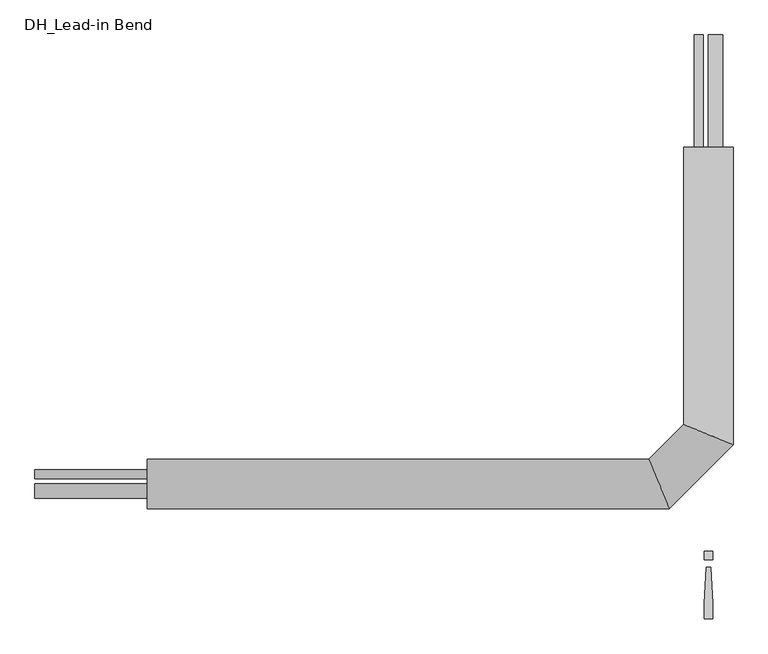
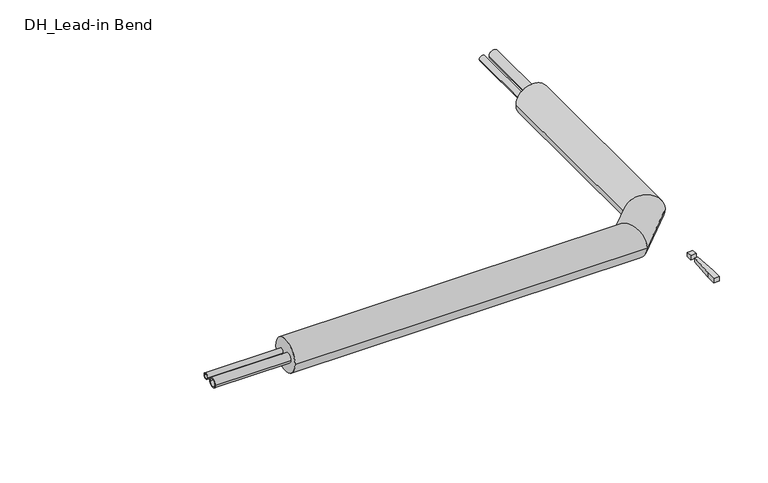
"""IFC4 building model written with IfcOpenShell, lengths in millimetres: pipe fitting geometry, DH_Lead-in Bend : INSULPEX DUO 7.4 DW Vertical."""

import ifcopenshell
import ifcopenshell.guid

model = None  # the IFC model being written
_history = None  # IfcOwnerHistory: only IFC2X3 demands one
_inside = {}  # id of a spatial element -> (the spatial element, [elements in it])
_under = {}  # id of a project, library or spatial element -> (it, [spatial elements below it])
_declared = {}  # id of a project -> (the project, [libraries it declares])
_typed = {}  # id of a type object -> (the type object, [elements of that type])
_made_of = {}  # id of a material, layer set ... -> (it, [elements and type objects made of it])


def new_model(schema):
    """Start an empty IFC model of exactly this schema.

    Asked for "IFC4X3", IfcOpenShell would pick the latest addendum, in which some entities
    have other attributes; the version numbers below select the first issue.
    IFC2X3 requires an IfcOwnerHistory on every rooted entity: one is made here for all.
    """
    global model, _history
    if schema == "IFC4X3":
        model = ifcopenshell.file(schema_version=(4, 3, 0, 0))
    else:
        model = ifcopenshell.file(schema=schema)
    _inside.clear()
    _under.clear()
    _declared.clear()
    _typed.clear()
    _made_of.clear()
    _history = None
    if model.schema == "IFC2X3":
        org = make("IfcOrganization", Name="unknown")
        user = make(
            "IfcPersonAndOrganization",
            ThePerson=make("IfcPerson", FamilyName="unknown"),
            TheOrganization=org,
        )
        app = make(
            "IfcApplication",
            ApplicationDeveloper=org,
            Version="unknown",
            ApplicationFullName="unknown",
            ApplicationIdentifier="unknown",
        )
        _history = make(
            "IfcOwnerHistory",
            OwningUser=user,
            OwningApplication=app,
            ChangeAction="ADDED",
            CreationDate=0,
        )
    return model


def make(cls, **values):
    """One entity of the class cls with the attributes given. An attribute that is None is left unset."""
    return model.create_entity(
        cls, **{name: value for name, value in values.items() if value is not None}
    )


def rooted(cls, **values):
    """An entity with a GlobalId (a new one), such as an element, a storey or a relation."""
    return make(cls, GlobalId=ifcopenshell.guid.new(), OwnerHistory=_history, **values)


def si_unit(unit_type, name, prefix=None):
    """IfcSIUnit, for example si_unit("LENGTHUNIT", "METRE", prefix="MILLI")."""
    return make("IfcSIUnit", UnitType=unit_type, Prefix=prefix, Name=name)


def assignment(units):
    """IfcUnitAssignment: the units of a project."""
    return None if units is None else make("IfcUnitAssignment", Units=units)


def point(xyz):
    """IfcCartesianPoint."""
    return None if xyz is None else make("IfcCartesianPoint", Coordinates=xyz)


def direction(xyz):
    """IfcDirection."""
    return None if xyz is None else make("IfcDirection", DirectionRatios=xyz)


def frame(location, z_axis=None, x_axis=None):
    """IfcAxis2Placement3D, a coordinate frame: its origin and axes. An axis left out is left unset."""
    return make(
        "IfcAxis2Placement3D",
        Location=point(location),
        Axis=direction(z_axis),
        RefDirection=direction(x_axis),
    )


def frame_2d(location, x_axis=None):
    """IfcAxis2Placement2D, a coordinate frame in the plane: its origin and x axis."""
    return make(
        "IfcAxis2Placement2D", Location=point(location), RefDirection=direction(x_axis)
    )


def origin():
    """The frame at (0, 0, 0) with its axes left unset."""
    return frame((0.0, 0.0, 0.0))


def origin_with_axes():
    """The frame at (0, 0, 0) with the z axis (0, 0, 1) and the x axis (1, 0, 0) written out."""
    return frame((0.0, 0.0, 0.0), z_axis=(0.0, 0.0, 1.0), x_axis=(1.0, 0.0, 0.0))


def place(relative_to, where):
    """IfcLocalPlacement: puts the frame where relative to a parent placement (None: the world)."""
    return make(
        "IfcLocalPlacement", PlacementRelTo=relative_to, RelativePlacement=where
    )


def context(
    kind, dimensions, precision=None, world=None, true_north=None, identifier=None
):
    """IfcGeometricRepresentationContext, for example the 3D "Model" context."""
    return make(
        "IfcGeometricRepresentationContext",
        ContextIdentifier=identifier,
        ContextType=kind,
        CoordinateSpaceDimension=dimensions,
        Precision=precision,
        WorldCoordinateSystem=world,
        TrueNorth=true_north,
    )


def project(units=None, contexts=None):
    """IfcProject with its units and contexts."""
    return rooted(
        "IfcProject",
        Name="project",
        RepresentationContexts=contexts,
        UnitsInContext=assignment(units),
    )


def spatial(cls, under=None, at=None, **own):
    """A site, building, storey or space (cls), placed at a placement, below another one or the project."""
    s = rooted(cls, ObjectPlacement=at, **own)
    if under is not None:
        _under.setdefault(under.id(), (under, []))[1].append(s)
    return s


def polyline(points):
    """IfcPolyline through the points."""
    return make("IfcPolyline", Points=[point(p) for p in points])


def circle_curve(where, radius):
    """IfcCircle in the frame where."""
    return make("IfcCircle", Position=where, Radius=radius)


def ellipse_curve(where, semi_axis1, semi_axis2):
    """IfcEllipse in the frame where."""
    return make(
        "IfcEllipse", Position=where, SemiAxis1=semi_axis1, SemiAxis2=semi_axis2
    )


def trimmed(basis, trim1, trim2, sense, master):
    """IfcTrimmedCurve: the piece of a basis curve between two trims."""
    return make(
        "IfcTrimmedCurve",
        BasisCurve=basis,
        Trim1=trim1,
        Trim2=trim2,
        SenseAgreement=sense,
        MasterRepresentation=master,
    )


def segment(curve, same_sense, transition):
    """IfcCompositeCurveSegment."""
    return make(
        "IfcCompositeCurveSegment",
        Transition=transition,
        SameSense=same_sense,
        ParentCurve=curve,
    )


def composite_curve(segments, self_intersect=None):
    """IfcCompositeCurve: segments joined end to end."""
    return make("IfcCompositeCurve", Segments=segments, SelfIntersect=self_intersect)


def outline(outer, holes=None, kind="AREA"):
    """IfcArbitraryClosedProfileDef: a profile drawn as a closed curve; with holes, ...WithVoids."""
    if holes is None:
        return make("IfcArbitraryClosedProfileDef", ProfileType=kind, OuterCurve=outer)
    return make(
        "IfcArbitraryProfileDefWithVoids",
        ProfileType=kind,
        OuterCurve=outer,
        InnerCurves=holes,
    )


def extrude(swept, where, along, depth):
    """IfcExtrudedAreaSolid: the profile swept, set in the frame where, extruded along a direction by depth."""
    return make(
        "IfcExtrudedAreaSolid",
        SweptArea=swept,
        Position=where,
        ExtrudedDirection=direction(along),
        Depth=depth,
    )


def shape(context_of_items, identifier, shape_type, items):
    """IfcShapeRepresentation: the items that make up one representation, for example the "Body"."""
    return make(
        "IfcShapeRepresentation",
        ContextOfItems=context_of_items,
        RepresentationIdentifier=identifier,
        RepresentationType=shape_type,
        Items=items,
    )


def source(mapping_origin, context_of_items, identifier, shape_type, items):
    """IfcRepresentationMap: a shape defined once, which mapped items show again and again."""
    return make(
        "IfcRepresentationMap",
        MappingOrigin=mapping_origin,
        MappedRepresentation=shape(context_of_items, identifier, shape_type, items),
    )


def transform(
    local_origin,
    x_axis=None,
    y_axis=None,
    z_axis=None,
    scale=None,
    scale2=None,
    scale3=None,
    uniform=True,
):
    """IfcCartesianTransformationOperator3D, or its non-uniform kind. x_axis, y_axis, z_axis: its Axis1, 2, 3."""
    if uniform:
        return make(
            "IfcCartesianTransformationOperator3D",
            Axis1=direction(x_axis),
            Axis2=direction(y_axis),
            LocalOrigin=point(local_origin),
            Scale=scale,
            Axis3=direction(z_axis),
        )
    return make(
        "IfcCartesianTransformationOperator3DnonUniform",
        Axis1=direction(x_axis),
        Axis2=direction(y_axis),
        LocalOrigin=point(local_origin),
        Scale=scale,
        Axis3=direction(z_axis),
        Scale2=scale2,
        Scale3=scale3,
    )


def mapped(mapping_source, mapping_target):
    """IfcMappedItem: shows the shape of a source again, moved by a transform."""
    return make(
        "IfcMappedItem", MappingSource=mapping_source, MappingTarget=mapping_target
    )


def made_of(thing, what):
    """Note that an element or type object is made of a material, layer set ...; save() writes the relation."""
    if what is not None:
        _made_of.setdefault(what.id(), (what, []))[1].append(thing)
    return thing


def element(
    cls,
    number,
    at=None,
    inside=None,
    cuts=None,
    type_object=None,
    material=None,
    context=None,
    identifier="Body",
    shape_type=None,
    held_by="IfcProductDefinitionShape",
    body=None,
    shapes=None,
    **own,
):
    """One element of the class cls, such as IfcWall. Its Tag is "e" and its number.

    at: its placement. inside: the storey or other place that contains it. cuts: it is an
    opening in that element (IfcRelVoidsElement). A single representation is given by context,
    identifier, shape_type and body (its items); several are given by shapes. held_by: the class
    of the entity that holds the representations. save() writes the other relations.
    """
    e = rooted(cls, Tag="e%d" % number, ObjectPlacement=at, **own)
    if body is not None:
        shapes = [shape(context, identifier, shape_type, body)]
    if shapes is not None:
        e.Representation = make(held_by, Representations=shapes)
    if inside is not None:
        _inside.setdefault(inside.id(), (inside, []))[1].append(e)
    if cuts is not None:
        rooted(
            "IfcRelVoidsElement", RelatingBuildingElement=cuts, RelatedOpeningElement=e
        )
    if type_object is not None:
        _typed.setdefault(type_object.id(), (type_object, []))[1].append(e)
    return made_of(e, material)


def aggregate(whole, parts):
    """IfcRelAggregates: a whole, such as a stair, and the parts it consists of."""
    return rooted("IfcRelAggregates", RelatingObject=whole, RelatedObjects=parts)


def save(model, path):
    """Write the relations noted so far, then the file.

    IfcRelAggregates (storeys below a building ...), IfcRelContainedInSpatialStructure (elements
    in a storey), IfcRelDefinesByType, IfcRelAssociatesMaterial and IfcRelDeclares: one each for
    every whole, place, type object, material and project.
    """
    for whole, parts in _under.values():
        aggregate(whole, parts)
    for where, things in _inside.values():
        rooted(
            "IfcRelContainedInSpatialStructure",
            RelatedElements=things,
            RelatingStructure=where,
        )
    for kind, things in _typed.values():
        rooted("IfcRelDefinesByType", RelatedObjects=things, RelatingType=kind)
    for what, things in _made_of.values():
        rooted("IfcRelAssociatesMaterial", RelatedObjects=things, RelatingMaterial=what)
    for by, libraries in _declared.values():
        rooted("IfcRelDeclares", RelatingContext=by, RelatedDefinitions=libraries)
    model.write(path)


def plane_surface(at):
    """IfcPlane: the flat surface through the origin of the frame at, square to its z axis."""
    return make("IfcPlane", Position=at)


def cylinder_surface(at, radius):
    """IfcCylindricalSurface: all points at the distance radius from the z axis of the frame at."""
    return make("IfcCylindricalSurface", Position=at, Radius=radius)


def advanced_brep(points, edges, surfaces, faces):
    """IfcAdvancedBrep: a solid bounded by faces that lie on surfaces and meet in shared edges.

    An edge is (start, end): straight between two places in points (the first is 0);
    or (start, end, curve); or (start, end, curve, False) where it runs against its curve.
    A face is (place in surfaces, loops), or (place, loops, False) where it looks against
    its surface's normal. A loop lists edges by number (the first is 1), with a minus sign
    where the edge is run from its end to its start. The first loop is the outer one.
    """
    corners = [point(p) for p in points]
    vertices = [make("IfcVertexPoint", VertexGeometry=c) for c in corners]
    made = []
    for start, end, *more in edges:
        made.append(
            make(
                "IfcEdgeCurve",
                EdgeStart=vertices[start],
                EdgeEnd=vertices[end],
                EdgeGeometry=more[0] if more else make("IfcPolyline", Points=[corners[start], corners[end]]),
                SameSense=more[1] if len(more) > 1 else True,
            )
        )
    hull = []
    for where, loops, *sense in faces:
        bounds = []
        for j, loop in enumerate(loops):
            ring = [make("IfcOrientedEdge", EdgeElement=made[abs(k) - 1], Orientation=k > 0) for k in loop]
            bounds.append(
                make(
                    "IfcFaceOuterBound" if j == 0 else "IfcFaceBound",
                    Bound=make("IfcEdgeLoop", EdgeList=ring),
                    Orientation=True,
                )
            )
        hull.append(make("IfcAdvancedFace", Bounds=bounds, FaceSurface=surfaces[where], SameSense=sense[0] if sense else True))
    return make("IfcAdvancedBrep", Outer=make("IfcClosedShell", CfsFaces=hull))


def dh_lead_in_bend_735d89d6(model_context):
    return source(origin(), model_context, "Body", "SolidModel", [
        extrude(outline(composite_curve([segment(trimmed(circle_curve(frame_2d((-16.0, 0.0)), 16.0), [point((0.0, 0.0))], [point((-32.0, 0.0))], False, "CARTESIAN"), True, "CONTINUOUS"), segment(trimmed(circle_curve(frame_2d((-16.0, 0.0)), 16.0), [point((-32.0, 0.0))], [point((0.0, 0.0))], False, "CARTESIAN"), True, "CONTINUOUS")], self_intersect=False), holes=[composite_curve([segment(trimmed(circle_curve(frame_2d((-16.0, 0.0)), 11.6), [point((-4.4, 0.0))], [point((-27.6, 0.0))], True, "CARTESIAN"), True, "CONTINUOUS"), segment(trimmed(circle_curve(frame_2d((-16.0, 0.0)), 11.6), [point((-27.6, 0.0))], [point((-4.4, 0.0))], True, "CARTESIAN"), True, "CONTINUOUS")], self_intersect=False)]), frame((-1500.0, 0.0, 0.0), z_axis=(1.0, 0.0, 0.0), x_axis=(0.0, 1.0, 0.0)), (0.0, 0.0, 1.0), 250.0),
        advanced_brep(
        [(-1250.0, -55.0, 0.0), (-1250.0, 55.0, 0.0), (-87.2182541, -55.0, 0.0), (-132.7817459, 55.0, 0.0), (55.0, 750.0, 0.0), (-55.0, 750.0, 0.0), (-55.0, 132.7817459, 0.0), (55.0, 87.2182541, 0.0)],
        [
            (0, 1, circle_curve(frame((-1250.0, 0.0, 0.0), z_axis=(-1.0, 0.0, 0.0), x_axis=(0.0, 1.0, 0.0)), 55.0)),
            (1, 0, circle_curve(frame((-1250.0, 0.0, 0.0), z_axis=(-1.0, 0.0, 0.0), x_axis=(0.0, 1.0, 0.0)), 55.0)),
            (0, 2),
            (2, 3, ellipse_curve(frame((-110.0, 0.0, 0.0), z_axis=(-0.9238795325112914, -0.3826834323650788, 0.0), x_axis=(-0.38268343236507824, 0.9238795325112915, 0.0)), 59.531571, 55.0)),
            (3, 1),
            (3, 2, ellipse_curve(frame((-110.0, 0.0, 0.0), z_axis=(-0.9238795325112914, -0.3826834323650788, 0.0), x_axis=(-0.38268343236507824, 0.9238795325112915, 0.0)), 59.531571, 55.0)),
            (4, 5, circle_curve(frame((0.0, 750.0, 0.0), z_axis=(0.0, 1.0, 0.0), x_axis=(-1.0, 0.0, 0.0)), 55.0)),
            (5, 4, circle_curve(frame((0.0, 750.0, 0.0), z_axis=(0.0, 1.0, 0.0), x_axis=(-1.0, 0.0, 0.0)), 55.0)),
            (6, 7, ellipse_curve(frame((0.0, 110.0, 0.0), z_axis=(0.38268343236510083, 0.9238795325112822, 0.0), x_axis=(0.9238795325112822, -0.3826834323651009, 0.0)), 59.531571, 55.0)),
            (7, 4),
            (5, 6),
            (7, 6, ellipse_curve(frame((0.0, 110.0, 0.0), z_axis=(0.38268343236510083, 0.9238795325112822, 0.0), x_axis=(0.9238795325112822, -0.3826834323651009, 0.0)), 59.531571, 55.0)),
            (2, 7),
            (6, 3),
        ],
        [
            plane_surface(frame((-1250.0, 0.0, 0.0), z_axis=(-1.0, 0.0, 0.0), x_axis=(0.0, 0.0, 1.0))),
            cylinder_surface(frame((-1250.0, 0.0, 0.0), z_axis=(-1.0, 0.0, 0.0), x_axis=(0.0, 1.0, 0.0)), 55.0),
            plane_surface(frame((0.0, 750.0, 0.0), z_axis=(0.0, 1.0, 0.0), x_axis=(0.0, 0.0, 1.0))),
            cylinder_surface(frame((0.0, 110.0, 0.0), z_axis=(0.0, -1.0, 0.0), x_axis=(-1.0, 0.0, 0.0)), 55.0),
            cylinder_surface(frame((-110.0, 0.0, 0.0), z_axis=(-0.7071067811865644, -0.7071067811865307, 0.0), x_axis=(-0.7071067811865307, 0.7071067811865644, 0.0)), 55.0),
        ],
        [
            (0, [[1, 2]]),
            (1, [[-1, 3, 4, 5]]),
            (1, [[-2, -5, 6, -3]]),
            (2, [[7, 8]]),
            (3, [[9, 10, -8, 11]]),
            (3, [[12, -11, -7, -10]]),
            (4, [[-4, 13, -9, 14]]),
            (4, [[-6, -14, -12, -13]]),
        ],
    ),
        extrude(outline(composite_curve([segment(trimmed(circle_curve(frame_2d((0.0, -22.0)), 10.0), [point((0.0, -12.0))], [point((0.0, -32.0))], False, "CARTESIAN"), True, "CONTINUOUS"), segment(trimmed(circle_curve(frame_2d((0.0, -22.0)), 10.0), [point((0.0, -32.0))], [point((0.0, -12.0))], False, "CARTESIAN"), True, "CONTINUOUS")], self_intersect=False), holes=[composite_curve([segment(trimmed(circle_curve(frame_2d((0.0, -22.0)), 7.2), [point((0.0, -14.8))], [point((0.0, -29.2))], True, "CARTESIAN"), True, "CONTINUOUS"), segment(trimmed(circle_curve(frame_2d((0.0, -22.0)), 7.2), [point((0.0, -29.2))], [point((0.0, -14.8))], True, "CARTESIAN"), True, "CONTINUOUS")], self_intersect=False)]), frame((0.0, 750.0, 0.0), z_axis=(0.0, 1.0, 0.0), x_axis=(0.0, 0.0, 1.0)), (0.0, 0.0, 1.0), 250.0),
        extrude(outline(composite_curve([segment(trimmed(circle_curve(frame_2d((22.0, 0.0)), 10.0), [point((12.0, 0.0))], [point((32.0, 0.0))], False, "CARTESIAN"), True, "CONTINUOUS"), segment(trimmed(circle_curve(frame_2d((22.0, 0.0)), 10.0), [point((32.0, 0.0))], [point((12.0, 0.0))], False, "CARTESIAN"), True, "CONTINUOUS")], self_intersect=False), holes=[composite_curve([segment(trimmed(circle_curve(frame_2d((22.0, 0.0)), 7.2), [point((14.8, 0.0))], [point((29.2, 0.0))], True, "CARTESIAN"), True, "CONTINUOUS"), segment(trimmed(circle_curve(frame_2d((22.0, 0.0)), 7.2), [point((29.2, 0.0))], [point((14.8, 0.0))], True, "CARTESIAN"), True, "CONTINUOUS")], self_intersect=False)]), frame((-1500.0, 0.0, 0.0), z_axis=(1.0, 0.0, 0.0), x_axis=(0.0, 1.0, 0.0)), (0.0, 0.0, 1.0), 250.0),
        extrude(outline(composite_curve([segment(trimmed(circle_curve(frame_2d((0.0, 16.0)), 16.0), [point((0.0, 0.0))], [point((0.0, 32.0))], False, "CARTESIAN"), True, "CONTINUOUS"), segment(trimmed(circle_curve(frame_2d((0.0, 16.0)), 16.0), [point((0.0, 32.0))], [point((0.0, 0.0))], False, "CARTESIAN"), True, "CONTINUOUS")], self_intersect=False), holes=[composite_curve([segment(trimmed(circle_curve(frame_2d((0.0, 16.0)), 11.6), [point((0.0, 4.4))], [point((0.0, 27.6))], True, "CARTESIAN"), True, "CONTINUOUS"), segment(trimmed(circle_curve(frame_2d((0.0, 16.0)), 11.6), [point((0.0, 27.6))], [point((0.0, 4.4))], True, "CARTESIAN"), True, "CONTINUOUS")], self_intersect=False)]), frame((0.0, 750.0, 0.0), z_axis=(0.0, 1.0, 0.0), x_axis=(0.0, 0.0, 1.0)), (0.0, 0.0, 1.0), 250.0),
        extrude(outline(polyline([(4.7088895, -185.3166715), (9.4177791, -266.6553807), (9.4177791, -300.6844652), (-9.4177791, -300.6844652), (-9.4177791, -266.6553807), (-4.7088895, -185.3166715), (4.7088895, -185.3166715)])), origin_with_axes(), (0.0, 0.0, 1.0), 15.0),
        extrude(outline(polyline([(9.4177791, -150.0), (9.4177791, -168.8355582), (-9.4177791, -168.8355582), (-9.4177791, -150.0), (9.4177791, -150.0)])), origin_with_axes(), (0.0, 0.0, 1.0), 15.0),
    ])


if __name__ == "__main__":
    model = new_model("IFC4")
    model_context = context("Model", 3, world=origin())
    ifc_project = project(units=[si_unit("LENGTHUNIT", "METRE", prefix="MILLI")], contexts=[model_context])
    site = spatial("IfcSite", under=ifc_project)
    building = spatial("IfcBuilding", under=site)
    placement = place(None, origin())
    dh_lead_in_bend_shape = dh_lead_in_bend_735d89d6(model_context)
    element("IfcPipeFitting", 1, ObjectType="DH_Lead-in Bend : INSULPEX DUO 7.4 DW Vertical", at=placement, inside=building, context=model_context, shape_type="MappedRepresentation", body=[
        mapped(dh_lead_in_bend_shape, transform((0.0, 0.0, 0.0), x_axis=(1.0, 0.0, 0.0), y_axis=(0.0, 1.0, 0.0), z_axis=(0.0, 0.0, 1.0))),
    ])
    save(model, "model.ifc")
